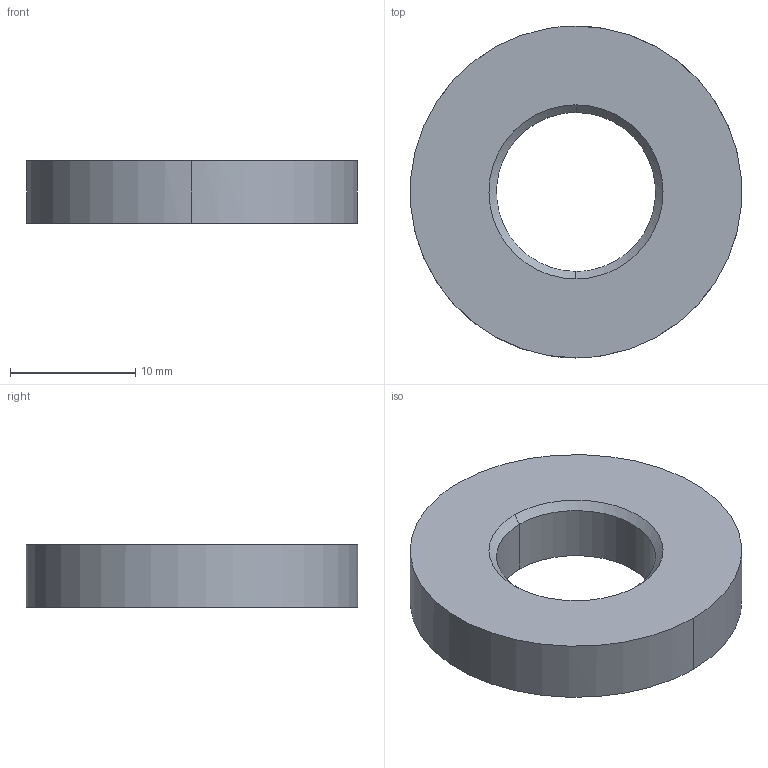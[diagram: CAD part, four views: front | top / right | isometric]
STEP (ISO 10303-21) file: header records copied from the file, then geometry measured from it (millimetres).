
FILE_DESCRIPTION (( 'STEP AP214' ), '1' );
FILE_NAME ('Soemer-SM71-M12 U-Scheibe.STEP', '2023-09-21T10:55:12', ( '' ), ( '' ), 'SwSTEP 2.0', 'SolidWorks 2019', '' );
FILE_SCHEMA (( 'AUTOMOTIVE_DESIGN' ));
Length unit declared in the file: millimetre
Products named in the file (2): Soemer-SM71-M12 U-Scheibe
Bounding box: 26.41 x 26.5 x 5 mm (x, y, z)
Volume: 2117 mm3; surface area: 1451.9 mm2
Topology: 1 solids, 1 shells, 8 faces, 16 edges, 10 vertices
Faces by surface type: bspline 6, plane 2
Entity records: 401 total; most frequent: CARTESIAN_POINT 218, ORIENTED_EDGE 32, EDGE_CURVE 16, DIRECTION 14, EDGE_LOOP 10, B_SPLINE_CURVE_WITH_KNOTS 10, VERTEX_POINT 10, ADVANCED_FACE 8
